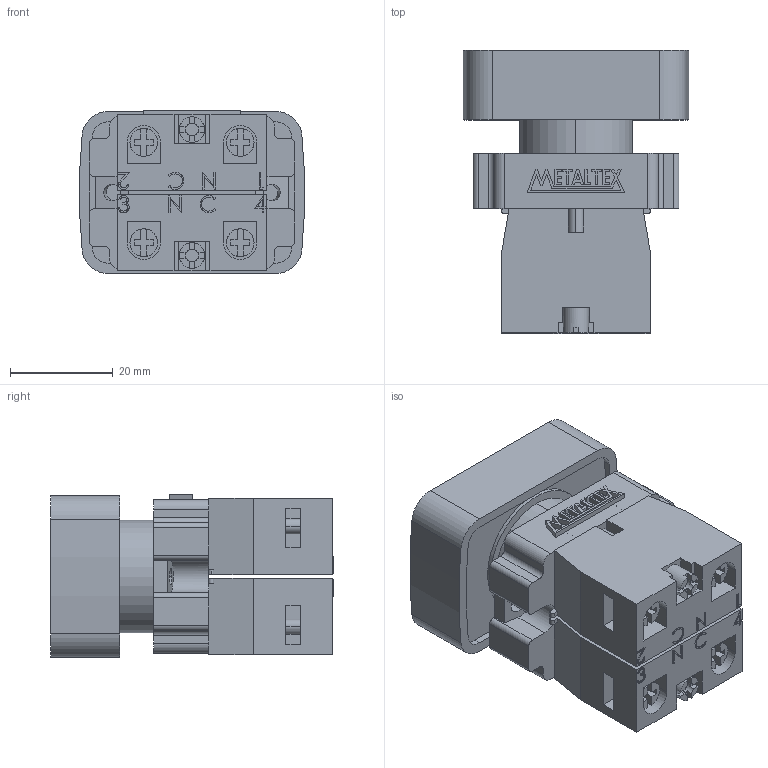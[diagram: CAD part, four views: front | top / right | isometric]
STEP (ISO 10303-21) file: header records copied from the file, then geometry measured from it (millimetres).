
FILE_DESCRIPTION (( 'STEP AP203' ), '1' );
FILE_NAME ('M20APL-1C.STEP', '2018-01-17T14:10:09', ( '' ), ( '' ), 'SwSTEP 2.0', 'SolidWorks 2012', '' );
FILE_SCHEMA (( 'CONFIG_CONTROL_DESIGN' ));
Length unit declared in the file: millimetre
Products named in the file (5): M20APL-1C; METALTEX 18,98; M20-1A; M20-1B; M20APL
Assembly tree (4 placements, depth 2):
  M20APL-1C
    M20APL
    M20-1B
    M20-1A
    METALTEX 18,98
Bounding box: 43.77 x 55.05 x 31.7 mm (x, y, z)
Volume: 48880 mm3; surface area: 25445.4 mm2
Topology: 11 solids, 11 shells, 576 faces, 1522 edges, 1012 vertices
Faces by surface type: plane 406, cylinder 124, bspline 38, torus 8
Entity records: 20415 total; most frequent: CARTESIAN_POINT 5547, ORIENTED_EDGE 3044, DIRECTION 2840, EDGE_CURVE 1522, VECTOR 1126, LINE 1126, VERTEX_POINT 1012, AXIS2_PLACEMENT_3D 857
